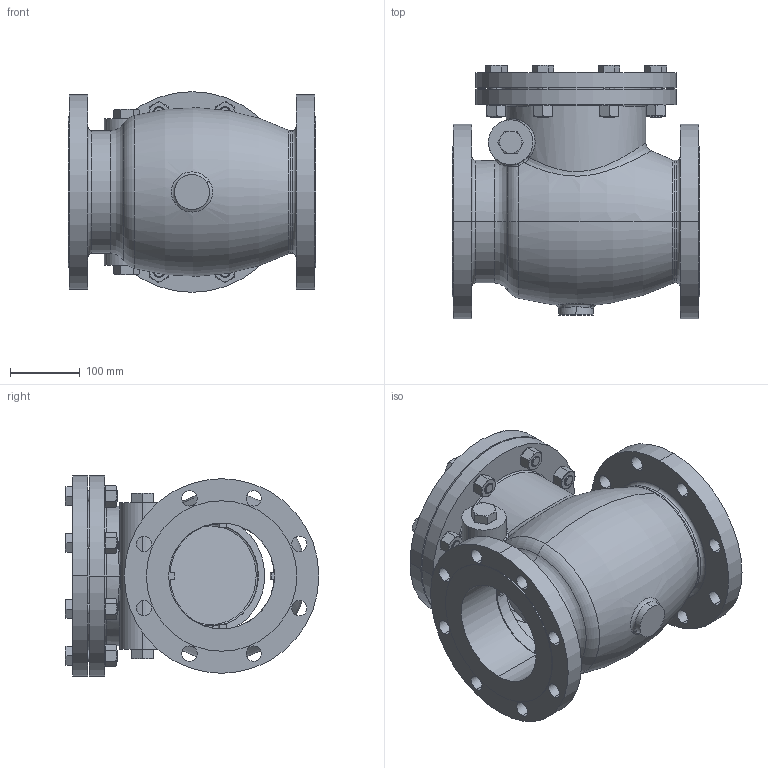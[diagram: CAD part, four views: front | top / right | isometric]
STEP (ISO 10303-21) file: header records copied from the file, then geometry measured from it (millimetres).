
FILE_DESCRIPTION (( 'STEP AP214' ), '1' );
FILE_NAME ('Assembly.STEP', '2019-12-29T19:35:34', ( '' ), ( '' ), 'SwSTEP 2.0', 'SolidWorks 2016', '' );
FILE_SCHEMA (( 'AUTOMOTIVE_DESIGN' ));
Length unit declared in the file: millimetre
Products named in the file (12): hex nut style 2_am_B18.2.4.2M - Hex nut, Style 2,  M14 x 2 --D-N; hex nut heavy_am_B18.2.4.6M - Heavy hex nut,  M16 x 2 --W-N; heavy hex bolt_am_B18.2.3.6M - Heavy hex bolt M16 x 2.0 x 65 --38N; Seat Ring; Hinge Pin Plug; Hinge Pin; Hinge; Gasket; Disc; Cover; Body; Assembly
Assembly tree (26 placements, depth 2):
  Assembly
    Body
    Cover
    Disc
    Gasket
    Hinge
    Hinge Pin
    Hinge Pin Plug  x2
    Seat Ring
    heavy hex bolt_am_B18.2.3.6M - Heavy hex bolt M16 x 2.0 x 65 --38N  x8
    hex nut heavy_am_B18.2.4.6M - Heavy hex nut,  M16 x 2 --W-N  x8
    hex nut style 2_am_B18.2.4.2M - Hex nut, Style 2,  M14 x 2 --D-N
Bounding box: 356 x 364.45 x 288 mm (x, y, z)
Volume: 8216620.7 mm3; surface area: 1243876.2 mm2
Topology: 26 solids, 26 shells, 759 faces, 1705 edges, 1030 vertices
Faces by surface type: plane 272, cylinder 229, cone 186, bspline 35, torus 35, sphere 2
Entity records: 17662 total; most frequent: CARTESIAN_POINT 7778, DIRECTION 2003, ORIENTED_EDGE 1854, EDGE_CURVE 927, AXIS2_PLACEMENT_3D 861, VERTEX_POINT 580, EDGE_LOOP 501, CIRCLE 474
